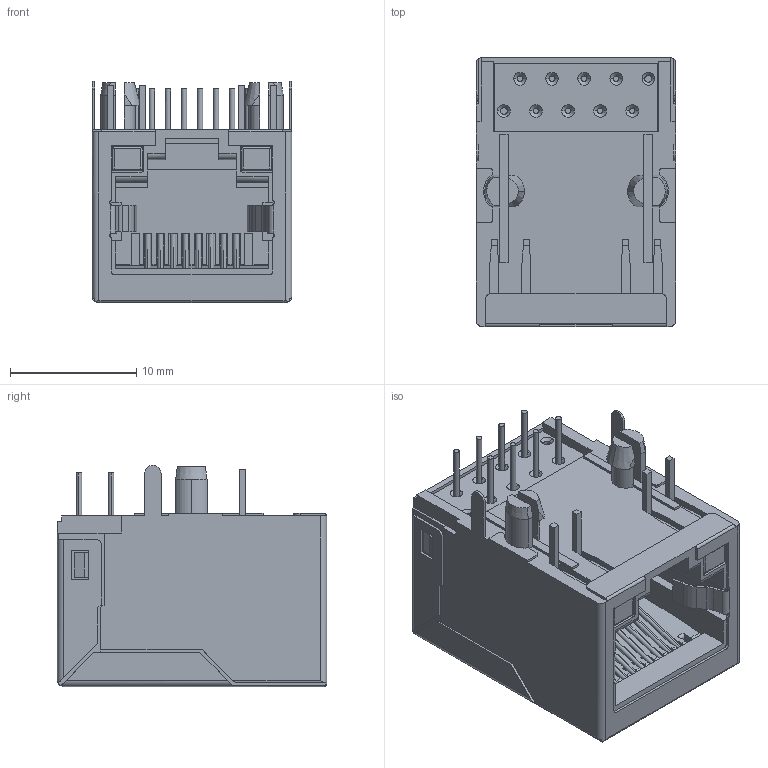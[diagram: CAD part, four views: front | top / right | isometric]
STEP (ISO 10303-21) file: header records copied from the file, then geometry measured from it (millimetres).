
FILE_DESCRIPTION (( 'STEP AP203' ), '1' );
FILE_NAME ('LPJE160HENL.STEP', '2024-09-23T02:40:46', ( '' ), ( '' ), 'SwSTEP 2.0', 'SolidWorks 2023', '' );
FILE_SCHEMA (( 'CONFIG_CONTROL_DESIGN' ));
Length unit declared in the file: millimetre
Products named in the file (1): LPJE160HENL
Bounding box: 15.8 x 21.3 x 17.5 mm (x, y, z)
Volume: 2672.4 mm3; surface area: 4516.2 mm2
Topology: 1 solids, 7 shells, 1021 faces, 2881 edges, 1874 vertices
Faces by surface type: plane 794, cylinder 163, bspline 38, cone 26
Entity records: 35060 total; most frequent: CARTESIAN_POINT 9591, ORIENTED_EDGE 5758, DIRECTION 4639, EDGE_CURVE 2879, VECTOR 2193, LINE 2193, VERTEX_POINT 1874, AXIS2_PLACEMENT_3D 1223
